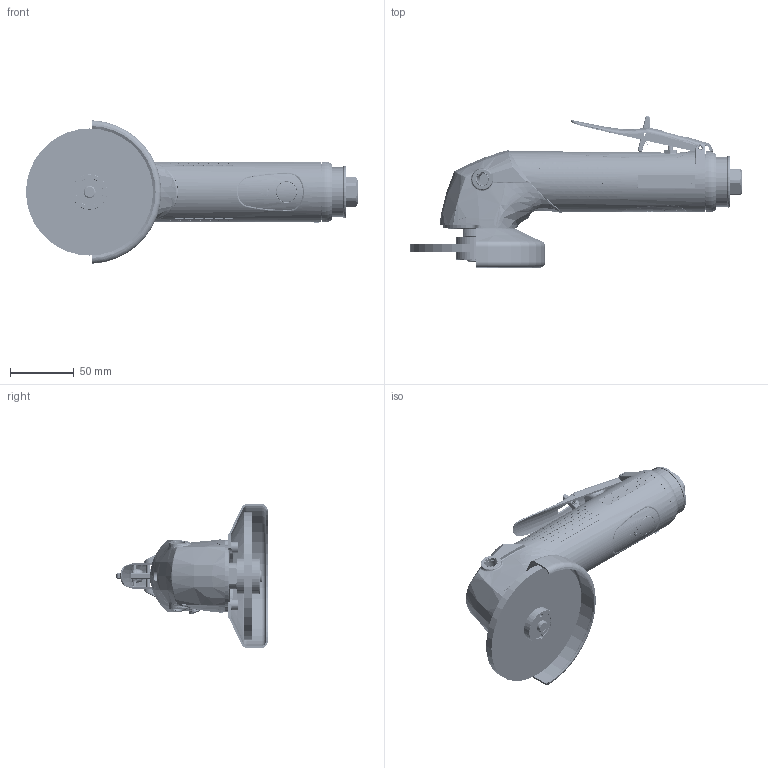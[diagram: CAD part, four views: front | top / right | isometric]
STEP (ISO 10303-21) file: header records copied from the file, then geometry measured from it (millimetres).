
FILE_DESCRIPTION((''),'2;1');
FILE_NAME('6151704410_KA16135C4FK','2008-10-28T',('sdanet'),(''),'PRO/ENGINEER BY PARAMETRIC TECHNOLOGY CORPORATION, 2008250','PRO/ENGINEER BY PARAMETRIC TECHNOLOGY CORPORATION, 2008250','');
FILE_SCHEMA(('CONFIG_CONTROL_DESIGN'));
Products named in the file (1): 6151704410_KA16135C4FK
Bounding box: 261.34 x 119.12 x 112.93 mm (x, y, z)
Volume: 149523.3 mm3; surface area: 183655.9 mm2
Topology: 15 solids, 42 shells, 6356 faces, 17011 edges, 11088 vertices
Faces by surface type: plane 2549, extrusion 2054, cylinder 987, cone 431, bspline 188, torus 125, sphere 22
Entity records: 229110 total; most frequent: CARTESIAN_POINT 80690, ORIENTED_EDGE 33840, DIRECTION 23455, EDGE_CURVE 16981, VECTOR 11321, VERTEX_POINT 11088, LINE 9267, B_SPLINE_CURVE_WITH_KNOTS 7816
